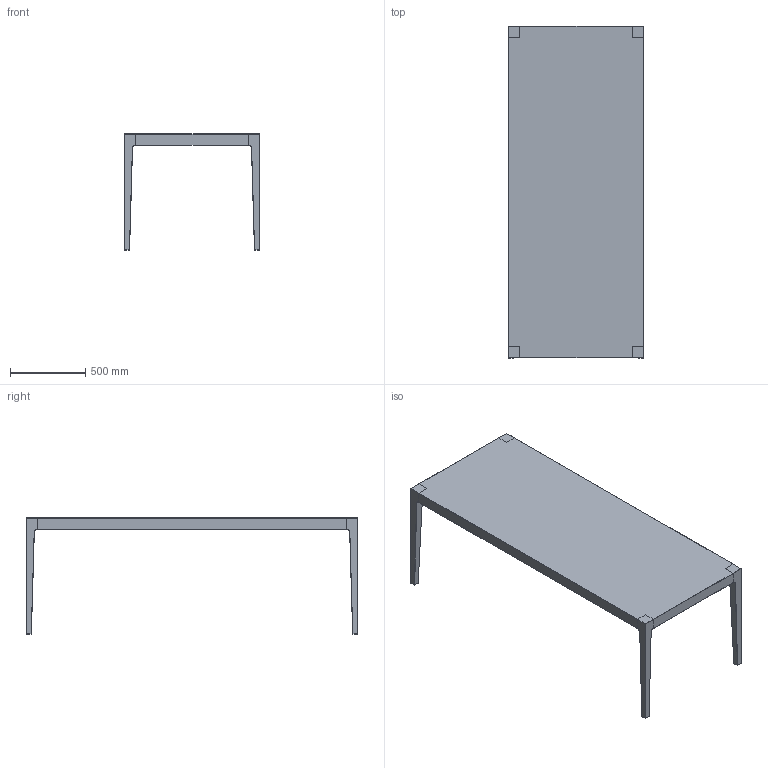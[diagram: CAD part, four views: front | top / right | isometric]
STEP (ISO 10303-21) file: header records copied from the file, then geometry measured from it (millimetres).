
FILE_DESCRIPTION(/* description */ (''),/* implementation_level */ '2;1');
FILE_NAME(/* name */ 'P-200',/* time_stamp */ '2021-10-18T22:29:13+02:00',/* author */ (''),/* organization */ (''),/* preprocessor_version */ 'ST-DEVELOPER v16.5',/* originating_system */ '',/* authorisation */ '');
FILE_SCHEMA (('AUTOMOTIVE_DESIGN'));
Length unit declared in the file: centimetre
Products named in the file (1): Document
Bounding box: 897.75 x 2200 x 769.71 mm (x, y, z)
Surface area: 4939781 mm2 (no closed solid volume)
Topology: 0 solids, 6 shells, 135 faces, 358 edges, 218 vertices
Faces by surface type: cylinder 56, plane 43, bspline 36
Entity records: 3918 total; most frequent: CARTESIAN_POINT 1831, ORIENTED_EDGE 594, EDGE_CURVE 350, VERTEX_POINT 218, B_SPLINE_CURVE_WITH_KNOTS 174, ADVANCED_FACE 127, FACE_OUTER_BOUND 127, EDGE_LOOP 127
